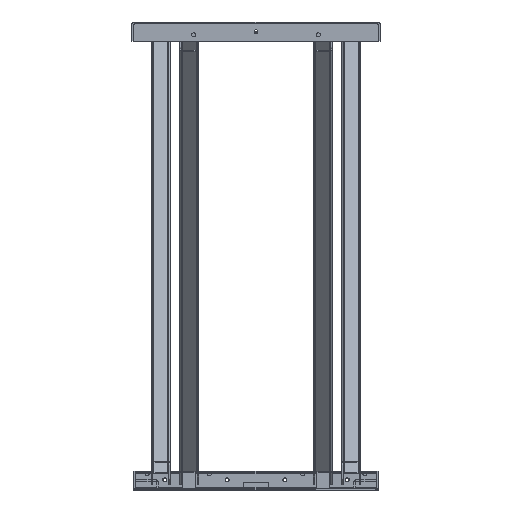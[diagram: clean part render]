
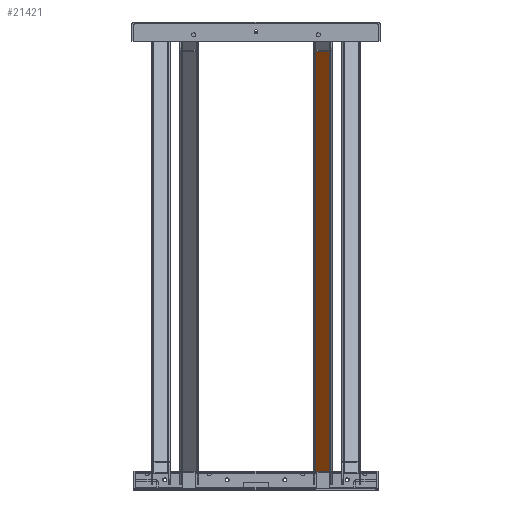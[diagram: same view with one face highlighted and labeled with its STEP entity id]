
A CAD part, front view. The second image highlights one B-rep face of the part: STEP entity #21421.
In plain terms, the highlighted planar face has unit normal (0, -0.759, -0.651) as drawn and (0, 1, 0) by its records, which use the part's own axes.
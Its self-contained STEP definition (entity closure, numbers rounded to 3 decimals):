
#2773=FACE_OUTER_BOUND('',#4141,.T.);
#4141=EDGE_LOOP('',(#17362,#17363,#17364,#17365));
#5824=LINE('',#34253,#7882);
#5851=LINE('',#34401,#7909);
#5856=LINE('',#34447,#7914);
#5864=LINE('',#34469,#7922);
#7882=VECTOR('',#27523,10.);
#7909=VECTOR('',#27596,10.);
#7914=VECTOR('',#27627,10.);
#7922=VECTOR('',#27661,10.);
#10025=VERTEX_POINT('',#34250);
#10026=VERTEX_POINT('',#34252);
#10045=VERTEX_POINT('',#34398);
#10046=VERTEX_POINT('',#34400);
#12590=EDGE_CURVE('',#10026,#10025,#5824,.T.);
#12630=EDGE_CURVE('',#10046,#10045,#5851,.T.);
#12640=EDGE_CURVE('',#10025,#10046,#5856,.T.);
#12649=EDGE_CURVE('',#10045,#10026,#5864,.T.);
#17362=ORIENTED_EDGE('',*,*,#12590,.T.);
#17363=ORIENTED_EDGE('',*,*,#12640,.T.);
#17364=ORIENTED_EDGE('',*,*,#12630,.T.);
#17365=ORIENTED_EDGE('',*,*,#12649,.T.);
#20483=PLANE('',#23314);
#21421=ADVANCED_FACE('',(#2773),#20483,.T.);
#23314=AXIS2_PLACEMENT_3D('',#34474,#27669,#27670);
#27523=DIRECTION('',(-1.,0.,0.));
#27596=DIRECTION('',(1.,0.,0.));
#27627=DIRECTION('',(0.,0.,1.));
#27661=DIRECTION('',(0.,0.,-1.));
#27669=DIRECTION('center_axis',(0.,1.,0.));
#27670=DIRECTION('ref_axis',(0.,0.,1.));
#34250=CARTESIAN_POINT('',(-22.,40.,-879.01));
#34252=CARTESIAN_POINT('',(22.,40.,-879.01));
#34253=CARTESIAN_POINT('',(4.,40.,-879.01));
#34398=CARTESIAN_POINT('',(22.,40.,900.));
#34400=CARTESIAN_POINT('',(-22.,40.,900.));
#34401=CARTESIAN_POINT('',(4.,40.,900.));
#34447=CARTESIAN_POINT('',(-22.,40.,0.));
#34469=CARTESIAN_POINT('',(22.,40.,0.));
#34474=CARTESIAN_POINT('Origin',(-22.,40.,0.));
